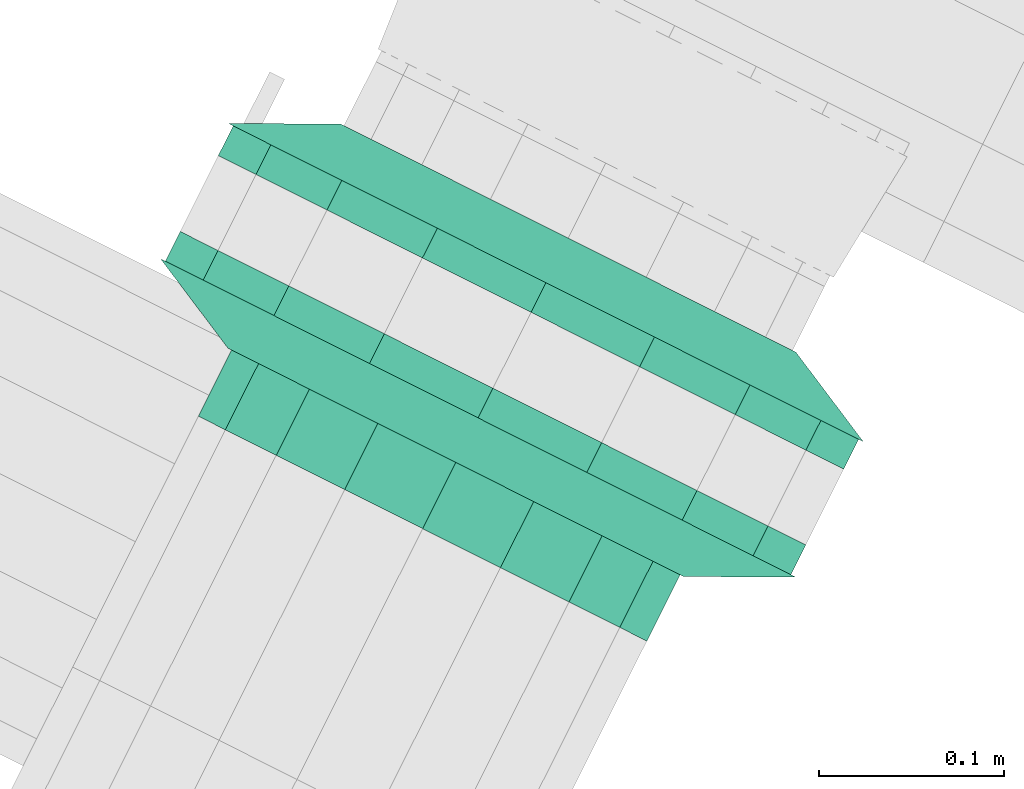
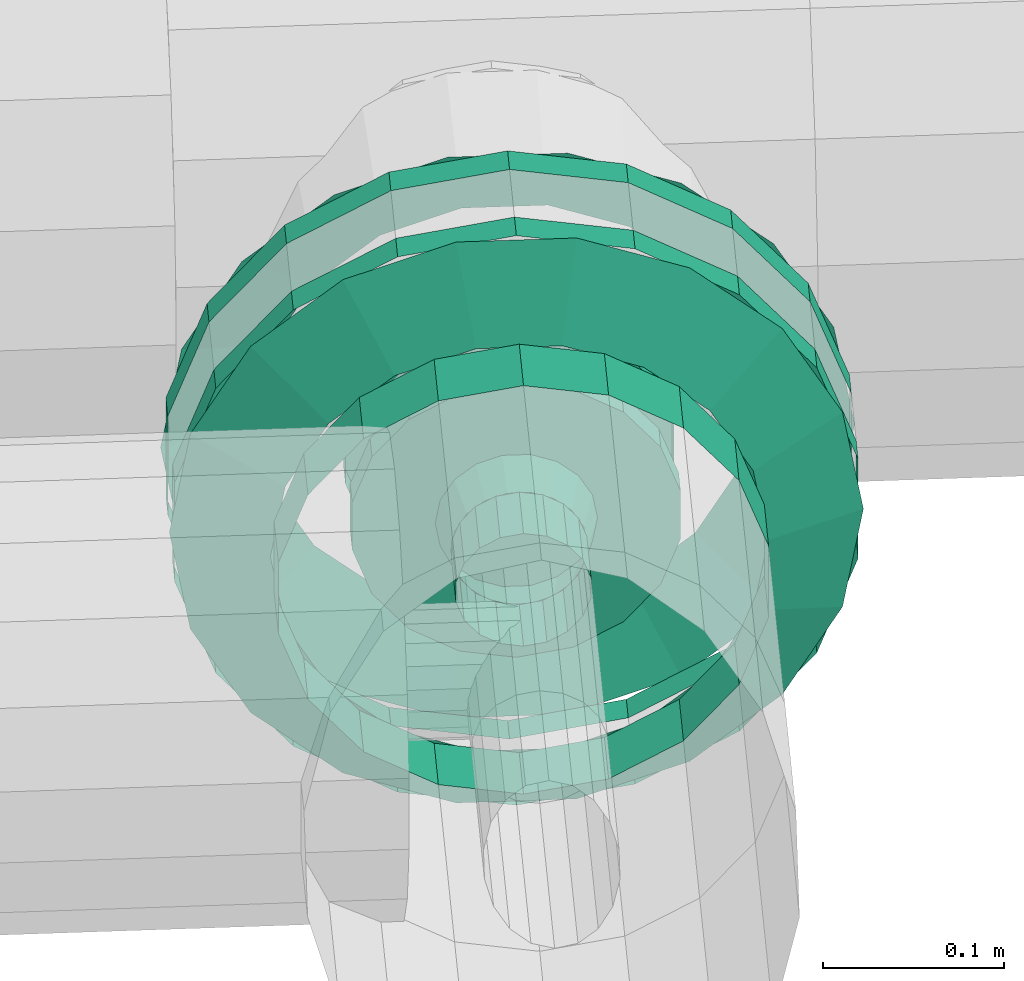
# One storey, part 45 of 152: 2 flow fittings, 1 flow segment.
"""IFC2X3 building model written with IfcOpenShell, lengths in metres."""

from ifc_helpers import new_model, si_unit, derived_unit, direction, frame, origin, place, context, subcontext, project, spatial, face_set, surface_model, source, transform, mapped, material, type_object, type_shapes, element, save


model = new_model("IFC2X3")

# Units and contexts
model_context = context("Model", 3, precision=5.2338327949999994e-05, world=origin(), true_north=direction((0.0, 1.0)))
body_context = subcontext(model_context, "Body", "Model", "MODEL_VIEW")
ifc_project = project(units=[si_unit("LENGTHUNIT", "METRE"), si_unit("AREAUNIT", "SQUARE_METRE"), si_unit("VOLUMEUNIT", "CUBIC_METRE"), si_unit("MASSUNIT", "GRAM", prefix="KILO"), si_unit("PLANEANGLEUNIT", "RADIAN"), derived_unit("THERMALTRANSMITTANCEUNIT", [(si_unit("MASSUNIT", "GRAM", prefix="KILO"), 1), (si_unit("THERMODYNAMICTEMPERATUREUNIT", "KELVIN"), -1), (si_unit("TIMEUNIT", "SECOND"), -3)])], contexts=[model_context])

# Site, building, storey
site_placement = place(None, frame((0.0, 0.0, 0.0), z_axis=(0.0, 0.0, 1.0), x_axis=(0.8939966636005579, -0.4480736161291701, 0.0)))
site = spatial("IfcSite", under=ifc_project, at=site_placement, Name="Default", CompositionType="ELEMENT")
building_placement = place(site_placement, origin())
building = spatial("IfcBuilding", under=site, at=building_placement, CompositionType="ELEMENT")
storey_placement = place(building_placement, frame((0.0, 0.0, 2.7499999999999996)))
storey = spatial("IfcBuildingStorey", under=building, at=storey_placement, Name="1. Obergeschoss", CompositionType="ELEMENT", Elevation=2.7499999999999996)

# Flow fittings
ifc_material = material(Name="IfcSurfaceStyle #1741")
distribution_element_type_1 = type_object("IfcDistributionElementType", Name="Flansch 262090:Flansch 262090", material=ifc_material)
shared_shape_1 = source(origin(), body_context, "Body", "SurfaceModel", [
    surface_model("IfcFaceBasedSurfaceModel", [(15.019192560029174, 7.7313813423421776, 5.635640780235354), (15.021487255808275, 7.731381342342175, 5.622626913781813), (15.014956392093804, 7.7043813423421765, 5.620249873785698), (15.012242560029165, 7.704381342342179, 5.635640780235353), (15.0280945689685, 7.731381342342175, 5.61118271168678), (15.022770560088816, 7.704381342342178, 5.606715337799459), (15.038217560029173, 7.731381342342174, 5.602688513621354), (15.034742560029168, 7.704381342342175, 5.596669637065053), (15.050635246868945, 7.731381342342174, 5.598168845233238), (15.049428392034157, 7.704381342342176, 5.591324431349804), (15.063849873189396, 7.731381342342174, 5.598168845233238), (15.065056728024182, 7.704381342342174, 5.591324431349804), (15.076267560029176, 7.731381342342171, 5.602688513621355), (15.079742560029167, 7.704381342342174, 5.5966696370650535), (15.086390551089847, 7.731381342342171, 5.611182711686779), (15.091714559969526, 7.704381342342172, 5.606715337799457), (15.09299786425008, 7.731381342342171, 5.622626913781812), (15.09952872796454, 7.704381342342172, 5.620249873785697), (15.095292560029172, 7.731381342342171, 5.635640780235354), (15.102242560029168, 7.704381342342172, 5.635640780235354), (15.09299786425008, 7.731381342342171, 5.648654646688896), (15.099528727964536, 7.704381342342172, 5.651031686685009), (15.086390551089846, 7.731381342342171, 5.660098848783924), (15.091714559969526, 7.704381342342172, 5.6645662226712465), (15.076267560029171, 7.731381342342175, 5.668593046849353), (15.079742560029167, 7.704381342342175, 5.674611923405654), (15.063849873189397, 7.731381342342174, 5.673112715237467), (15.065056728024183, 7.704381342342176, 5.6799571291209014), (15.050635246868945, 7.731381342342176, 5.673112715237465), (15.049428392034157, 7.704381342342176, 5.679957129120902), (15.038217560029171, 7.731381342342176, 5.668593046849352), (15.03474256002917, 7.7043813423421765, 5.674611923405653), (15.028094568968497, 7.731381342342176, 5.6600988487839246), (15.022770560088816, 7.7043813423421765, 5.6645662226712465), (15.021487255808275, 7.731381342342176, 5.648654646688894), (15.014956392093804, 7.704381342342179, 5.651031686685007), (15.057242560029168, 7.7043813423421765, 5.7281407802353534), (15.025605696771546, 7.704381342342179, 5.722562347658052), (15.025605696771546, 7.686381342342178, 5.722562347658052), (15.057242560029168, 7.686381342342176, 5.7281407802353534), (14.997784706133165, 7.70438134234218, 5.706499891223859), (14.997784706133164, 7.686381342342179, 5.706499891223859), (14.97713521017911, 7.70438134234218, 5.681890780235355), (14.97713521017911, 7.6863813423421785, 5.681890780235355), (14.966147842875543, 7.70438134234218, 5.651703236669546), (14.966147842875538, 7.6863813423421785, 5.651703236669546), (14.966147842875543, 7.70438134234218, 5.619578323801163), (14.96614784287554, 7.686381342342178, 5.619578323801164), (14.97713521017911, 7.704381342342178, 5.5893907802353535), (14.97713521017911, 7.686381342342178, 5.589390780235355), (14.997784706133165, 7.704381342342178, 5.564781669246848), (14.997784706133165, 7.686381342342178, 5.564781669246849), (15.025605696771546, 7.704381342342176, 5.548719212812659), (15.025605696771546, 7.686381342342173, 5.548719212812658), (15.057242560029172, 7.704381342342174, 5.543140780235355), (15.057242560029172, 7.686381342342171, 5.543140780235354), (15.088879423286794, 7.70438134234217, 5.548719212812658), (15.088879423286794, 7.68638134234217, 5.548719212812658), (15.116700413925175, 7.70438134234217, 5.564781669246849), (15.116700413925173, 7.686381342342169, 5.564781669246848), (15.137349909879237, 7.7043813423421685, 5.5893907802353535), (15.137349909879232, 7.686381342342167, 5.589390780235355), (15.1483372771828, 7.70438134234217, 5.619578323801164), (15.148337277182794, 7.686381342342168, 5.619578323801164), (15.1483372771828, 7.70438134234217, 5.651703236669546), (15.1483372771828, 7.686381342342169, 5.651703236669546), (15.137349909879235, 7.70438134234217, 5.681890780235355), (15.137349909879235, 7.686381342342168, 5.681890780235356), (15.116700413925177, 7.704381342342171, 5.706499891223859), (15.11670041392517, 7.686381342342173, 5.706499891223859), (15.088879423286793, 7.704381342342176, 5.722562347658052), (15.088879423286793, 7.686381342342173, 5.722562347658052), (15.057242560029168, 7.704381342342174, 5.635640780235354), (14.919192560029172, 7.731381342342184, 5.635640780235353), (14.927517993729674, 7.731381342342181, 5.588424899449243), (14.876351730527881, 7.704381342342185, 5.569801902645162), (14.86474256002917, 7.704381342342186, 5.635640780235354), (14.951490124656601, 7.731381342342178, 5.546903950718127), (14.90977900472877, 7.704381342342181, 5.511904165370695), (14.988217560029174, 7.731381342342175, 5.5160859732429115), (14.960992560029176, 7.704381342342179, 5.468930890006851), (15.033270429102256, 7.731381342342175, 5.499688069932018), (15.023815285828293, 7.704381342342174, 5.446065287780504), (15.081214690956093, 7.73138134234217, 5.49968806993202), (15.090669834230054, 7.7043813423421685, 5.446065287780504), (15.126267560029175, 7.731381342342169, 5.516085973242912), (15.153492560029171, 7.704381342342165, 5.468930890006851), (15.16299499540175, 7.731381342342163, 5.5469039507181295), (15.204706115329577, 7.704381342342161, 5.511904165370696), (15.186967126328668, 7.731381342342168, 5.588424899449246), (15.238133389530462, 7.704381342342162, 5.569801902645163), (15.195292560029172, 7.731381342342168, 5.635640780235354), (15.24974256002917, 7.704381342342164, 5.635640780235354), (15.186967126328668, 7.731381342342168, 5.682856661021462), (15.238133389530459, 7.704381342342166, 5.701479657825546), (15.16299499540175, 7.7313813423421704, 5.724377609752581), (15.204706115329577, 7.704381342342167, 5.759377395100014), (15.126267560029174, 7.7313813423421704, 5.755195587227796), (15.153492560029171, 7.70438134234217, 5.802350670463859), (15.081214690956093, 7.731381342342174, 5.771593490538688), (15.090669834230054, 7.704381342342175, 5.825216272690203), (15.03327042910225, 7.731381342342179, 5.771593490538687), (15.023815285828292, 7.70438134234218, 5.825216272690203), (14.988217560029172, 7.731381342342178, 5.755195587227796), (14.960992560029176, 7.704381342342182, 5.802350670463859), (14.951490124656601, 7.731381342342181, 5.724377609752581), (14.90977900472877, 7.7043813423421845, 5.759377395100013), (14.927517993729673, 7.731381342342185, 5.682856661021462), (14.876351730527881, 7.70438134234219, 5.701479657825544), (15.057242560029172, 7.704381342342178, 5.828140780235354), (14.99140368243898, 7.704381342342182, 5.816531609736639), (14.991403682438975, 7.686381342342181, 5.816531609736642), (15.057242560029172, 7.686381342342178, 5.828140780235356), (14.93350594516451, 7.7043813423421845, 5.783104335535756), (14.93350594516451, 7.686381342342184, 5.783104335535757), (14.890532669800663, 7.704381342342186, 5.731890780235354), (14.890532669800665, 7.686381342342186, 5.731890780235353), (14.867667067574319, 7.704381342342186, 5.669068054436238), (14.867667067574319, 7.6863813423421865, 5.669068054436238), (14.867667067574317, 7.704381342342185, 5.602213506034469), (14.867667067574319, 7.686381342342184, 5.602213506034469), (14.890532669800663, 7.7043813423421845, 5.539390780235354), (14.890532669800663, 7.686381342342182, 5.539390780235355), (14.93350594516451, 7.70438134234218, 5.488177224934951), (14.93350594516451, 7.6863813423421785, 5.48817722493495), (14.99140368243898, 7.704381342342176, 5.454749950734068), (14.99140368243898, 7.686381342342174, 5.454749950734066), (15.057242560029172, 7.704381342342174, 5.443140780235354), (15.057242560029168, 7.686381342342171, 5.443140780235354), (15.123081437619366, 7.704381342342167, 5.454749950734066), (15.123081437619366, 7.686381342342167, 5.454749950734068), (15.18097917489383, 7.704381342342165, 5.48817722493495), (15.18097917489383, 7.6863813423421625, 5.488177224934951), (15.223952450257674, 7.704381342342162, 5.5393907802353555), (15.223952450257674, 7.6863813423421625, 5.539390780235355), (15.246818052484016, 7.704381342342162, 5.602213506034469), (15.246818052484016, 7.6863813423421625, 5.602213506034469), (15.246818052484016, 7.704381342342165, 5.66906805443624), (15.246818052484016, 7.6863813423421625, 5.66906805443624), (15.22395245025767, 7.704381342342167, 5.731890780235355), (15.223952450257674, 7.686381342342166, 5.731890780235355), (15.18097917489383, 7.704381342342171, 5.783104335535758), (15.18097917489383, 7.686381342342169, 5.783104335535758), (15.12308143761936, 7.704381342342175, 5.816531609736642), (15.12308143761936, 7.686381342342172, 5.816531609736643)], [face_set([[[0, 1, 2, 3]], [[1, 4, 5, 2]], [[4, 6, 7, 5]], [[6, 8, 9, 7]], [[8, 10, 11, 9]], [[10, 12, 13, 11]], [[12, 14, 15, 13]], [[14, 16, 17, 15]], [[16, 18, 19, 17]], [[18, 20, 21, 19]], [[20, 22, 23, 21]], [[22, 24, 25, 23]], [[24, 26, 27, 25]], [[26, 28, 29, 27]], [[28, 30, 31, 29]], [[30, 32, 33, 31]], [[32, 34, 35, 33]], [[34, 0, 3, 35]], [[36, 37, 38, 39]], [[37, 40, 41, 38]], [[40, 42, 43, 41]], [[42, 44, 45, 43]], [[44, 46, 47, 45]], [[46, 48, 49, 47]], [[48, 50, 51, 49]], [[50, 52, 53, 51]], [[52, 54, 55, 53]], [[54, 56, 57, 55]], [[56, 58, 59, 57]], [[58, 60, 61, 59]], [[60, 62, 63, 61]], [[62, 64, 65, 63]], [[64, 66, 67, 65]], [[66, 68, 69, 67]], [[68, 70, 71, 69]], [[70, 36, 39, 71]], [[72, 37, 36]], [[72, 40, 37]], [[72, 42, 40]], [[72, 44, 42]], [[72, 46, 44]], [[72, 48, 46]], [[72, 50, 48]], [[72, 52, 50]], [[72, 54, 52]], [[72, 56, 54]], [[72, 58, 56]], [[72, 60, 58]], [[72, 62, 60]], [[72, 64, 62]], [[72, 66, 64]], [[72, 68, 66]], [[72, 70, 68]], [[72, 36, 70]], [[73, 74, 75, 76]], [[74, 77, 78, 75]], [[77, 79, 80, 78]], [[79, 81, 82, 80]], [[81, 83, 84, 82]], [[83, 85, 86, 84]], [[85, 87, 88, 86]], [[87, 89, 90, 88]], [[89, 91, 92, 90]], [[91, 93, 94, 92]], [[93, 95, 96, 94]], [[95, 97, 98, 96]], [[97, 99, 100, 98]], [[99, 101, 102, 100]], [[101, 103, 104, 102]], [[103, 105, 106, 104]], [[105, 107, 108, 106]], [[107, 73, 76, 108]], [[109, 110, 111, 112]], [[110, 113, 114, 111]], [[113, 115, 116, 114]], [[115, 117, 118, 116]], [[117, 119, 120, 118]], [[119, 121, 122, 120]], [[121, 123, 124, 122]], [[123, 125, 126, 124]], [[125, 127, 128, 126]], [[127, 129, 130, 128]], [[129, 131, 132, 130]], [[131, 133, 134, 132]], [[133, 135, 136, 134]], [[135, 137, 138, 136]], [[137, 139, 140, 138]], [[139, 141, 142, 140]], [[141, 143, 144, 142]], [[143, 109, 112, 144]]])]),
])
type_shapes(distribution_element_type_1, [shared_shape_1])
flow_fitting_1_placement = place(storey_placement, frame((0.0, 0.0, -2.7499999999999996)))
element("IfcFlowFitting", 1, at=flow_fitting_1_placement, inside=storey, type_object=distribution_element_type_1, material=ifc_material, Name="Flansch", ObjectType="Flansch", context=body_context, shape_type="MappedRepresentation", body=[
    mapped(shared_shape_1, transform((0.0, 0.0, 0.0), scale=1.0)),
])
distribution_element_type_2 = type_object("IfcDistributionElementType", Name="Flansch 262119:Flansch 262119", material=ifc_material)
shared_shape_2 = source(origin(), body_context, "Body", "SurfaceModel", [
    surface_model("IfcFaceBasedSurfaceModel", [(15.057242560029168, 7.640381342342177, 5.7281407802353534), (15.025605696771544, 7.640381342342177, 5.722562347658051), (15.025605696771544, 7.622381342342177, 5.722562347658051), (15.057242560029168, 7.622381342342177, 5.7281407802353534), (14.997784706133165, 7.640381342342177, 5.70649989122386), (14.997784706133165, 7.622381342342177, 5.70649989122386), (14.977135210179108, 7.640381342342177, 5.6818907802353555), (14.977135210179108, 7.622381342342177, 5.6818907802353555), (14.966147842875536, 7.640381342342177, 5.651703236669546), (14.966147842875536, 7.622381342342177, 5.651703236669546), (14.966147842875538, 7.640381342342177, 5.619578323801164), (14.966147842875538, 7.622381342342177, 5.619578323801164), (14.977135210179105, 7.640381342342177, 5.589390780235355), (14.977135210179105, 7.622381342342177, 5.589390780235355), (14.997784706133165, 7.640381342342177, 5.56478166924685), (14.997784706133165, 7.622381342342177, 5.56478166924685), (15.025605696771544, 7.640381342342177, 5.548719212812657), (15.025605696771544, 7.622381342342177, 5.548719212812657), (15.057242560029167, 7.640381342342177, 5.543140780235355), (15.057242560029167, 7.622381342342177, 5.543140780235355), (15.088879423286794, 7.640381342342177, 5.548719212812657), (15.088879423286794, 7.622381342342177, 5.548719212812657), (15.116700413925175, 7.640381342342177, 5.564781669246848), (15.116700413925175, 7.622381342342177, 5.564781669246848), (15.13734990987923, 7.640381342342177, 5.589390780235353), (15.13734990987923, 7.622381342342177, 5.589390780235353), (15.148337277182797, 7.640381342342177, 5.619578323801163), (15.148337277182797, 7.622381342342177, 5.619578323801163), (15.148337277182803, 7.640381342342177, 5.651703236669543), (15.148337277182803, 7.622381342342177, 5.651703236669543), (15.13734990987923, 7.640381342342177, 5.681890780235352), (15.13734990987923, 7.622381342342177, 5.681890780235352), (15.116700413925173, 7.640381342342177, 5.706499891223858), (15.116700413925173, 7.622381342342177, 5.706499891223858), (15.088879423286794, 7.640381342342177, 5.722562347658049), (15.088879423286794, 7.622381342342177, 5.722562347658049), (15.057242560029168, 7.622381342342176, 5.635640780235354), (15.012242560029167, 7.622381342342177, 5.635640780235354), (15.0149563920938, 7.622381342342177, 5.620249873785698), (15.021487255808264, 7.5953813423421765, 5.622626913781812), (15.019192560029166, 7.5953813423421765, 5.635640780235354), (15.022770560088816, 7.622381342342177, 5.606715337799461), (15.028094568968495, 7.5953813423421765, 5.611182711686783), (15.03474256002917, 7.622381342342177, 5.596669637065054), (15.03821756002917, 7.5953813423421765, 5.602688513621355), (15.049428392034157, 7.622381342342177, 5.591324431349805), (15.050635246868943, 7.5953813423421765, 5.598168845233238), (15.065056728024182, 7.622381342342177, 5.591324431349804), (15.063849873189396, 7.5953813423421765, 5.598168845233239), (15.079742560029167, 7.622381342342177, 5.596669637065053), (15.076267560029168, 7.5953813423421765, 5.602688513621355), (15.091714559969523, 7.622381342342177, 5.606715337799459), (15.086390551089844, 7.5953813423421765, 5.61118271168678), (15.099528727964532, 7.6223813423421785, 5.6202498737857), (15.092997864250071, 7.595381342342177, 5.622626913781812), (15.102242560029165, 7.622381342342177, 5.635640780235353), (15.095292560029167, 7.5953813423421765, 5.635640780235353), (15.099528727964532, 7.622381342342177, 5.651031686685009), (15.092997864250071, 7.5953813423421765, 5.648654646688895), (15.091714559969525, 7.622381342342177, 5.6645662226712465), (15.086390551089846, 7.5953813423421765, 5.660098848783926), (15.079742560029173, 7.622381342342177, 5.674611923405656), (15.07626756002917, 7.5953813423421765, 5.668593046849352), (15.06505672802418, 7.622381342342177, 5.679957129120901), (15.063849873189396, 7.5953813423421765, 5.673112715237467), (15.049428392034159, 7.622381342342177, 5.679957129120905), (15.050635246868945, 7.5953813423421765, 5.673112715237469), (15.03474256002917, 7.622381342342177, 5.674611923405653), (15.03821756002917, 7.5953813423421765, 5.668593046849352), (15.022770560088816, 7.622381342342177, 5.664566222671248), (15.028094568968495, 7.5953813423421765, 5.660098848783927), (15.014956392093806, 7.622381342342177, 5.651031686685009), (15.021487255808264, 7.5953813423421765, 5.648654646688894), (15.057242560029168, 7.640381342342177, 5.828140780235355), (14.991403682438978, 7.640381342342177, 5.816531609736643), (14.991403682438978, 7.622381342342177, 5.816531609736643), (15.057242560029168, 7.622381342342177, 5.828140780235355), (14.93350594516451, 7.640381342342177, 5.783104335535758), (14.93350594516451, 7.622381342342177, 5.783104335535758), (14.890532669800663, 7.640381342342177, 5.731890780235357), (14.890532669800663, 7.622381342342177, 5.731890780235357), (14.867667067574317, 7.640381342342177, 5.66906805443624), (14.867667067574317, 7.622381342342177, 5.66906805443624), (14.86766706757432, 7.640381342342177, 5.602213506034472), (14.86766706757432, 7.622381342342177, 5.602213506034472), (14.890532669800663, 7.640381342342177, 5.539390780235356), (14.890532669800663, 7.622381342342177, 5.539390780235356), (14.933505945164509, 7.640381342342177, 5.488177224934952), (14.933505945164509, 7.622381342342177, 5.488177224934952), (14.991403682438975, 7.640381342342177, 5.454749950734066), (14.991403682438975, 7.622381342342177, 5.454749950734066), (15.057242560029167, 7.640381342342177, 5.443140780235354), (15.057242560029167, 7.622381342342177, 5.443140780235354), (15.123081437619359, 7.640381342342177, 5.454749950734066), (15.123081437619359, 7.622381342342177, 5.454749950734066), (15.18097917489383, 7.640381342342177, 5.488177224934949), (15.18097917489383, 7.622381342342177, 5.488177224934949), (15.223952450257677, 7.640381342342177, 5.539390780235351), (15.223952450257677, 7.622381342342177, 5.539390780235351), (15.24681805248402, 7.640381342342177, 5.602213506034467), (15.24681805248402, 7.622381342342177, 5.602213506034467), (15.24681805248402, 7.640381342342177, 5.669068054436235), (15.24681805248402, 7.622381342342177, 5.669068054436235), (15.223952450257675, 7.640381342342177, 5.731890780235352), (15.223952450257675, 7.622381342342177, 5.731890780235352), (15.18097917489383, 7.640381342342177, 5.783104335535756), (15.18097917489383, 7.622381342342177, 5.783104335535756), (15.123081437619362, 7.640381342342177, 5.816531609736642), (15.123081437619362, 7.622381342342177, 5.816531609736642), (14.864742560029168, 7.622381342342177, 5.635640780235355), (14.87635173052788, 7.622381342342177, 5.569801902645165), (14.927517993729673, 7.5953813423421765, 5.588424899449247), (14.919192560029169, 7.5953813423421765, 5.635640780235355), (14.909779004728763, 7.622381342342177, 5.511904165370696), (14.951490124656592, 7.5953813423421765, 5.546903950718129), (14.960992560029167, 7.622381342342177, 5.468930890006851), (14.988217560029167, 7.5953813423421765, 5.516085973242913), (15.023815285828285, 7.622381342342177, 5.446065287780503), (15.033270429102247, 7.5953813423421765, 5.499688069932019), (15.090669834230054, 7.622381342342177, 5.446065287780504), (15.08121469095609, 7.5953813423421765, 5.499688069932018), (15.153492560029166, 7.622381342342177, 5.468930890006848), (15.126267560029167, 7.5953813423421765, 5.5160859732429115), (15.20470611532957, 7.622381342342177, 5.5119041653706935), (15.162994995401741, 7.5953813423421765, 5.546903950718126), (15.238133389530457, 7.622381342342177, 5.56980190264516), (15.186967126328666, 7.5953813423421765, 5.588424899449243), (15.24974256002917, 7.622381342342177, 5.6356407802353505), (15.195292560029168, 7.5953813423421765, 5.635640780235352), (15.238133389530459, 7.622381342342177, 5.701479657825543), (15.186967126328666, 7.5953813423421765, 5.682856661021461), (15.204706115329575, 7.622381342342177, 5.759377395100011), (15.162994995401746, 7.5953813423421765, 5.724377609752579), (15.15349256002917, 7.622381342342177, 5.8023506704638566), (15.12626756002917, 7.5953813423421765, 5.755195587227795), (15.090669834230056, 7.622381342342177, 5.825216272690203), (15.081214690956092, 7.5953813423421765, 5.771593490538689), (15.023815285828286, 7.622381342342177, 5.825216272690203), (15.03327042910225, 7.5953813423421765, 5.771593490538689), (14.960992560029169, 7.622381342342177, 5.802350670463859), (14.98821756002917, 7.5953813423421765, 5.755195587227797), (14.909779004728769, 7.622381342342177, 5.759377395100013), (14.951490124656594, 7.5953813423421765, 5.724377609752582), (14.876351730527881, 7.622381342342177, 5.701479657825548), (14.927517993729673, 7.5953813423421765, 5.682856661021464)], [face_set([[[0, 1, 2, 3]], [[1, 4, 5, 2]], [[4, 6, 7, 5]], [[6, 8, 9, 7]], [[8, 10, 11, 9]], [[10, 12, 13, 11]], [[12, 14, 15, 13]], [[14, 16, 17, 15]], [[16, 18, 19, 17]], [[18, 20, 21, 19]], [[20, 22, 23, 21]], [[22, 24, 25, 23]], [[24, 26, 27, 25]], [[26, 28, 29, 27]], [[28, 30, 31, 29]], [[30, 32, 33, 31]], [[32, 34, 35, 33]], [[34, 0, 3, 35]], [[36, 35, 3]], [[36, 33, 35]], [[36, 31, 33]], [[36, 29, 31]], [[36, 27, 29]], [[36, 25, 27]], [[36, 23, 25]], [[36, 21, 23]], [[36, 19, 21]], [[36, 17, 19]], [[36, 15, 17]], [[36, 13, 15]], [[36, 11, 13]], [[36, 9, 11]], [[36, 7, 9]], [[36, 5, 7]], [[36, 2, 5]], [[36, 3, 2]], [[37, 38, 39, 40]], [[38, 41, 42, 39]], [[41, 43, 44, 42]], [[43, 45, 46, 44]], [[45, 47, 48, 46]], [[47, 49, 50, 48]], [[49, 51, 52, 50]], [[51, 53, 54, 52]], [[53, 55, 56, 54]], [[55, 57, 58, 56]], [[57, 59, 60, 58]], [[59, 61, 62, 60]], [[61, 63, 64, 62]], [[63, 65, 66, 64]], [[65, 67, 68, 66]], [[67, 69, 70, 68]], [[69, 71, 72, 70]], [[71, 37, 40, 72]], [[73, 74, 75, 76]], [[74, 77, 78, 75]], [[77, 79, 80, 78]], [[79, 81, 82, 80]], [[81, 83, 84, 82]], [[83, 85, 86, 84]], [[85, 87, 88, 86]], [[87, 89, 90, 88]], [[89, 91, 92, 90]], [[91, 93, 94, 92]], [[93, 95, 96, 94]], [[95, 97, 98, 96]], [[97, 99, 100, 98]], [[99, 101, 102, 100]], [[101, 103, 104, 102]], [[103, 105, 106, 104]], [[105, 107, 108, 106]], [[107, 73, 76, 108]], [[109, 110, 111, 112]], [[110, 113, 114, 111]], [[113, 115, 116, 114]], [[115, 117, 118, 116]], [[117, 119, 120, 118]], [[119, 121, 122, 120]], [[121, 123, 124, 122]], [[123, 125, 126, 124]], [[125, 127, 128, 126]], [[127, 129, 130, 128]], [[129, 131, 132, 130]], [[131, 133, 134, 132]], [[133, 135, 136, 134]], [[135, 137, 138, 136]], [[137, 139, 140, 138]], [[139, 141, 142, 140]], [[141, 143, 144, 142]], [[143, 109, 112, 144]]])]),
])
type_shapes(distribution_element_type_2, [shared_shape_2])
flow_fitting_2_placement = place(storey_placement, frame((0.0, 0.0, -2.7499999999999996)))
element("IfcFlowFitting", 2, at=flow_fitting_2_placement, inside=storey, type_object=distribution_element_type_2, material=ifc_material, Name="Flansch", ObjectType="Flansch", context=body_context, shape_type="MappedRepresentation", body=[
    mapped(shared_shape_2, transform((0.0, 0.0, 0.0), scale=1.0)),
])

# Flow segment
distribution_element_type_3 = type_object("IfcDistributionElementType", Name="Stahlrohr nach DIN 2448 262142:Stahlrohr nach DIN 2448 262142", material=ifc_material)
shared_shape_3 = source(origin(), body_context, "Body", "SurfaceModel", [
    surface_model("IfcFaceBasedSurfaceModel", [(15.057242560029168, 7.5953813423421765, 5.597590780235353), (15.070256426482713, 7.5953813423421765, 5.5998854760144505), (15.070256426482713, 7.555239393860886, 5.5998854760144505), (15.057242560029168, 7.555239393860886, 5.597590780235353), (15.08170062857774, 7.5953813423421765, 5.606492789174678), (15.08170062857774, 7.555239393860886, 5.606492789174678), (15.090194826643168, 7.5953813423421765, 5.616615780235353), (15.090194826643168, 7.555239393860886, 5.616615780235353), (15.094714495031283, 7.5953813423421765, 5.629033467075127), (15.094714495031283, 7.555239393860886, 5.629033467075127), (15.094714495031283, 7.5953813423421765, 5.6422480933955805), (15.094714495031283, 7.555239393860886, 5.6422480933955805), (15.090194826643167, 7.5953813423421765, 5.654665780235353), (15.090194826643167, 7.555239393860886, 5.654665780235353), (15.08170062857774, 7.5953813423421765, 5.66478877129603), (15.08170062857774, 7.555239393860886, 5.66478877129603), (15.07025642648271, 7.5953813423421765, 5.671396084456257), (15.07025642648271, 7.555239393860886, 5.671396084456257), (15.057242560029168, 7.5953813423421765, 5.673690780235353), (15.057242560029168, 7.555239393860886, 5.673690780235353), (15.044228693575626, 7.5953813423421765, 5.671396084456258), (15.044228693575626, 7.555239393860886, 5.671396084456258), (15.032784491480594, 7.5953813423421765, 5.664788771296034), (15.032784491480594, 7.555239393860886, 5.664788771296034), (15.02429029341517, 7.5953813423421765, 5.654665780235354), (15.02429029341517, 7.555239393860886, 5.654665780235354), (15.019770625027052, 7.5953813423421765, 5.642248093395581), (15.019770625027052, 7.555239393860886, 5.642248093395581), (15.019770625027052, 7.5953813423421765, 5.6290334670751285), (15.019770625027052, 7.555239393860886, 5.6290334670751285), (15.02429029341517, 7.5953813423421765, 5.616615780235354), (15.02429029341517, 7.555239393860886, 5.616615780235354), (15.032784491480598, 7.5953813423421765, 5.606492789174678), (15.032784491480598, 7.555239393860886, 5.606492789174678), (15.044228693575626, 7.5953813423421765, 5.599885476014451), (15.044228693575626, 7.555239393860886, 5.599885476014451), (15.057242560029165, 7.5953813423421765, 5.497590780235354), (15.104458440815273, 7.5953813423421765, 5.505916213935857), (15.104458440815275, 7.555239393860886, 5.50591621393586), (15.057242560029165, 7.555239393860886, 5.497590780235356), (15.145979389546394, 7.5953813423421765, 5.529888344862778), (15.145979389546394, 7.555239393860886, 5.529888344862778), (15.176797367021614, 7.5953813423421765, 5.566615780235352), (15.176797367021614, 7.555239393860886, 5.566615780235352), (15.1931952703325, 7.5953813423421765, 5.611668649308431), (15.1931952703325, 7.555239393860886, 5.611668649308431), (15.193195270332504, 7.5953813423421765, 5.659612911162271), (15.193195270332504, 7.555239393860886, 5.659612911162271), (15.176797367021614, 7.5953813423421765, 5.704665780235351), (15.176797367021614, 7.555239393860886, 5.704665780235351), (15.145979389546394, 7.5953813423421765, 5.741393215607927), (15.145979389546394, 7.555239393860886, 5.741393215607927), (15.104458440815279, 7.5953813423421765, 5.765365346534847), (15.104458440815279, 7.555239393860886, 5.765365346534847), (15.057242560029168, 7.5953813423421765, 5.773690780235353), (15.057242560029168, 7.555239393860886, 5.773690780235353), (15.010026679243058, 7.5953813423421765, 5.76536534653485), (15.010026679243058, 7.555239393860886, 5.76536534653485), (14.968505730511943, 7.5953813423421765, 5.741393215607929), (14.968505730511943, 7.555239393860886, 5.741393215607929), (14.937687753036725, 7.5953813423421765, 5.704665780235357), (14.937687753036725, 7.555239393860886, 5.704665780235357), (14.921289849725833, 7.5953813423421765, 5.659612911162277), (14.921289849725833, 7.555239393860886, 5.659612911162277), (14.92128984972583, 7.5953813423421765, 5.611668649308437), (14.92128984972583, 7.555239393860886, 5.611668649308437), (14.937687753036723, 7.5953813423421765, 5.566615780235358), (14.937687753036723, 7.555239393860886, 5.566615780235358), (14.96850573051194, 7.5953813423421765, 5.529888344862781), (14.96850573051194, 7.555239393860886, 5.529888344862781), (15.01002667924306, 7.5953813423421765, 5.505916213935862), (15.01002667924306, 7.555239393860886, 5.505916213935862)], [face_set([[[0, 1, 2, 3]], [[1, 4, 5, 2]], [[4, 6, 7, 5]], [[6, 8, 9, 7]], [[8, 10, 11, 9]], [[10, 12, 13, 11]], [[12, 14, 15, 13]], [[14, 16, 17, 15]], [[16, 18, 19, 17]], [[18, 20, 21, 19]], [[20, 22, 23, 21]], [[22, 24, 25, 23]], [[24, 26, 27, 25]], [[26, 28, 29, 27]], [[28, 30, 31, 29]], [[30, 32, 33, 31]], [[32, 34, 35, 33]], [[34, 0, 3, 35]], [[36, 37, 38, 39]], [[37, 40, 41, 38]], [[40, 42, 43, 41]], [[42, 44, 45, 43]], [[44, 46, 47, 45]], [[46, 48, 49, 47]], [[48, 50, 51, 49]], [[50, 52, 53, 51]], [[52, 54, 55, 53]], [[54, 56, 57, 55]], [[56, 58, 59, 57]], [[58, 60, 61, 59]], [[60, 62, 63, 61]], [[62, 64, 65, 63]], [[64, 66, 67, 65]], [[66, 68, 69, 67]], [[68, 70, 71, 69]], [[70, 36, 39, 71]]])]),
])
type_shapes(distribution_element_type_3, [shared_shape_3])
flow_segment_placement = place(storey_placement, frame((0.0, 0.0, -2.7499999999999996)))
element("IfcFlowSegment", 3, at=flow_segment_placement, inside=storey, type_object=distribution_element_type_3, material=ifc_material, Name="Stahlrohr nach DIN 2448", ObjectType="Stahlrohr nach DIN 2448", context=body_context, shape_type="MappedRepresentation", body=[
    mapped(shared_shape_3, transform((0.0, 0.0, 0.0), scale=1.0)),
])

save(model, "model.ifc")
